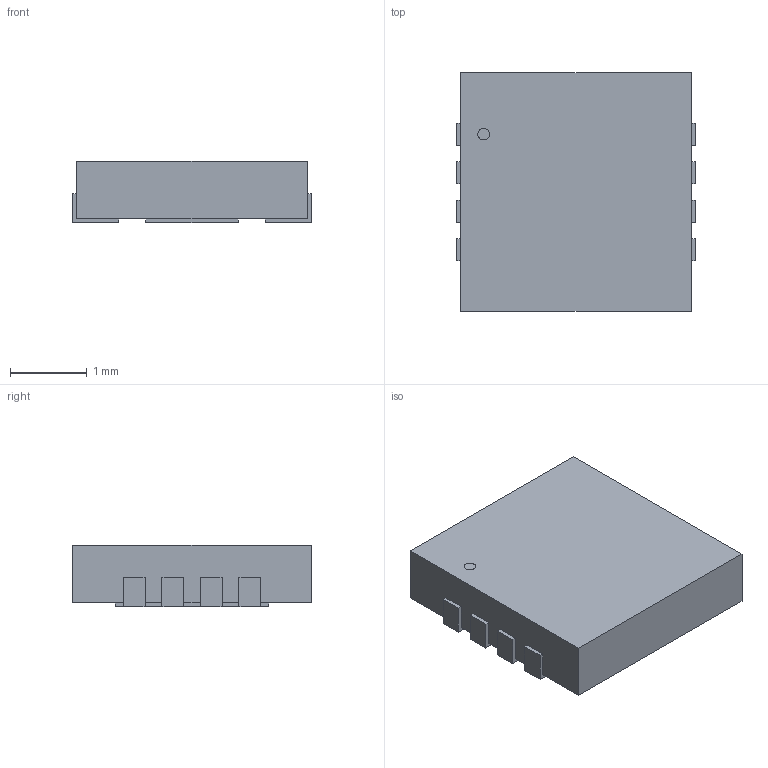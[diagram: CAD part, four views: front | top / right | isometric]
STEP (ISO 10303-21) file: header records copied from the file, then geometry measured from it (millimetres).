
FILE_DESCRIPTION(('STEP AP214'),'1');
FILE_NAME('DRG8_2x1P2','2024-04-08T04:55:54',(''),(''),'','','');
FILE_SCHEMA(('AUTOMOTIVE_DESIGN'));
Length unit declared in the file: millimetre
Products named in the file (1): product
Bounding box: 3.1 x 3.1 x 0.8 mm (x, y, z)
Volume: 7.2 mm3; surface area: 38 mm2
Topology: 11 solids, 11 shells, 79 faces, 171 edges, 114 vertices
Faces by surface type: plane 78, cylinder 1
Full cylindrical faces by diameter (mm): 0.15 x1
Entity records: 2165 total; most frequent: ORIENTED_EDGE 340, DIRECTION 334, CARTESIAN_POINT 197, EDGE_CURVE 170, LINE 168, VECTOR 168, VERTEX_POINT 114, AXIS2_PLACEMENT_3D 83
